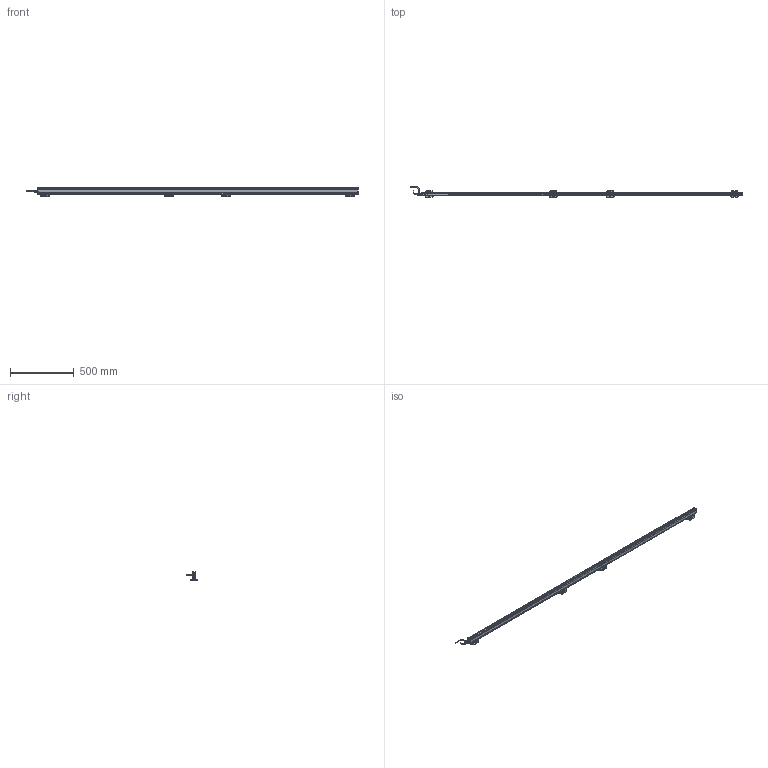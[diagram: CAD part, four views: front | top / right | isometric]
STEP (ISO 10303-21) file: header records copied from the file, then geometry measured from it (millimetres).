
FILE_DESCRIPTION(('Bauteilbeschreibung','HiCAD-Model','HiCAD-STEP-TRANSLATION','Bauteilbeschreibung'),'2;1');
FILE_NAME('PERFORMAXIQEASY_2430-2520_3D.STP','2014-03-05T12:54:31+00:00',('Konstrukteur'),('Konstrukteur Firma GmbH'),' HiCAD 2011, Step 1600.0 ','HiCAD 2011','confidential');
FILE_SCHEMA(('AUTOMOTIVE_DESIGN { 1 2 10303 214 0 1 1 1 }'));
Products named in the file (46): PERFORMAXIQEASY_2430_2520_3D; A_PERFORMAX IQ EASY 2430_2520; A_PERFORMAX IQ EASY SPEED; A_CAP DE; A_CAP CE_5; LED_2C_3MM; LED02C03MM; A519020315_CONNECTOR APPLIANCE; A_INSERT; A_CONTACTS; A_HOUSING; A_PROFILE; A_POTTING; PIN; PIN0; A532000100_BRACKET BARS_ MOUNT; A_SIDE PIECE; A0SIDE0PIECE; A_BRACKET SMALL; A_SLIDE PIECE; A5320001000BRACKET0BARS00MOUNT; A0SIDE0PIECE0; A0SIDE0PIECE1; A0BRACKET0SMALL; A0SLIDE0PIECE; A5320001000BRACKET0BARS00MOUNT0; A0SIDE0PIECE2; A0SIDE0PIECE3; A0BRACKET0SMALL0; A0SLIDE0PIECE0; A0SIDE0PIECE4; A0SIDE0PIECE5; A0BRACKET0SMALL1; A0SLIDE0PIECE1; A_CONNECTOR STRAIGHT; EXTRUDED SOLID_0; DRAAD GEBOGEN; REVOLVED SOLID_1; REVOLVED SOLID_3; A_CONNECTOR ANGLED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
Assembly tree (45 placements, depth 5):
  PERFORMAXIQEASY_2430_2520_3D
    A_PERFORMAX IQ EASY 2430_2520
      A_PERFORMAX IQ EASY SPEED
        A_CAP DE
        A_CAP CE_5
        LED_2C_3MM
        LED02C03MM
        A519020315_CONNECTOR APPLIANCE
          A_INSERT
          A_CONTACTS
          A_HOUSING
        A_PROFILE
        A_POTTING
        PIN
        PIN0
      A532000100_BRACKET BARS_ MOUNT
        A_SIDE PIECE
        A0SIDE0PIECE
        A_BRACKET SMALL
        A_SLIDE PIECE
      A5320001000BRACKET0BARS00MOUNT
        A0SIDE0PIECE0
        A0SIDE0PIECE1
        A0BRACKET0SMALL
        A0SLIDE0PIECE
      A5320001000BRACKET0BARS00MOUNT0
        A0SIDE0PIECE2
        A0SIDE0PIECE3
        A0BRACKET0SMALL0
        A0SLIDE0PIECE0
      A5320001000BRACKET0BARS00MOUNT0
        A0SIDE0PIECE4
        A0SIDE0PIECE5
        A0BRACKET0SMALL1
        A0SLIDE0PIECE1
      A_CONNECTOR STRAIGHT
        EXTRUDED SOLID_0
        DRAAD GEBOGEN
        REVOLVED SOLID_1
        REVOLVED SOLID_3
      A_CONNECTOR ANGLED
        REVOLVED0SOLID01
        EXTRUDED0SOLID00
        C_EDGE SWEEP_0
        REVOLVED SOLID_2
        REVOLVED0SOLID03
Bounding box: 2597.89 x 84.28 x 63.13 mm (x, y, z)
Volume: 2600582.9 mm3; surface area: 638116 mm2
Topology: 41 solids, 41 shells, 3447 faces, 8839 edges, 5258 vertices
Faces by surface type: cylinder 1457, plane 1315, sphere 222, torus 205, bspline 168, cone 80
Full cylindrical faces by diameter (mm): 0.8 x10, 1 x5, 2.387 x8, 3 x19, 3.1 x1, 4.2 x2, 5 x4, 5.5 x20, 8 x2, 8.2 x1, 8.4 x2, 8.945 x1, 9 x2, 10.2 x1, 10.5 x3, 11 x1, 12 x3, 12.8 x1, 13.8 x4, 14.5 x3
Entity records: 159221 total; most frequent: CARTESIAN_POINT 37152, DIRECTION 17145, ORIENTED_EDGE 16748, EDGE_CURVE 8374, COLOUR_RGB 7959, PRESENTATION_STYLE_ASSIGNMENT 7959, OVER_RIDING_STYLED_ITEM 7923, CURVE_STYLE 7918
